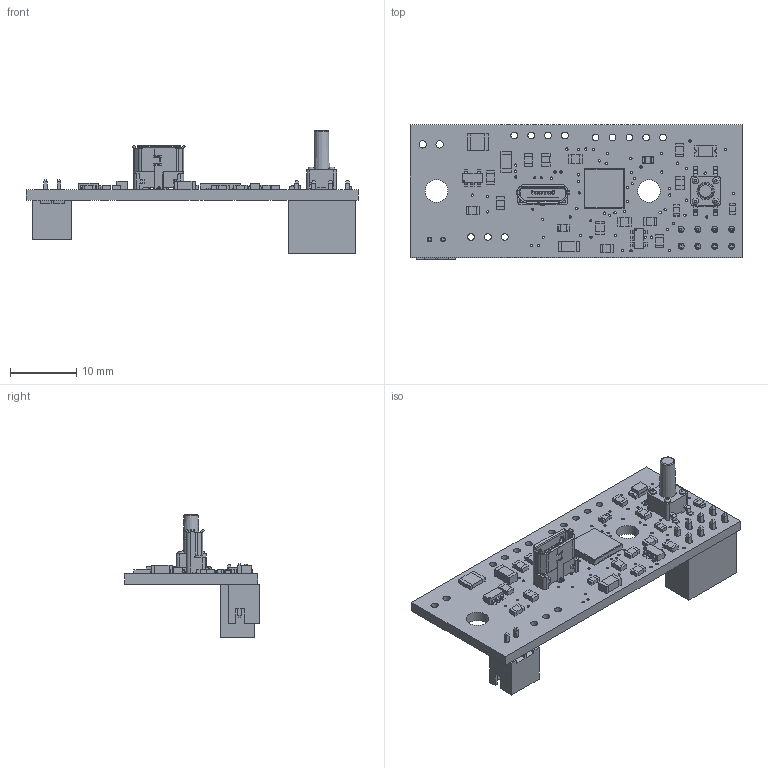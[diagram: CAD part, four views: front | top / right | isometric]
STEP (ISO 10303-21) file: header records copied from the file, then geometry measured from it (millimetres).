
FILE_DESCRIPTION(/* description */ (''),/* implementation_level */ '2;1');
FILE_NAME(/* name */ 'C:/Users/Owner/Desktop/pixel-quark-v1a-3d-1 v8.step',/* time_stamp */ '2020-02-29T10:13:47-06:00',/* author */ (''),/* organization */ (''),/* preprocessor_version */ 'ST-DEVELOPER v18',/* originating_system */ 'Autodesk Translation Framework v8.12.0.6',/* authorisation */ '');
FILE_SCHEMA (('AUTOMOTIVE_DESIGN { 1 0 10303 214 3 1 1 }'));
Products named in the file (21): pixel-quark-v1a-3d-1; PCB Component; Board; 0.1uF; 100; PIC24FJXXGB002; 10k; blue; AP2210K; Fuse 2 amps; 47uF; SW-TACTILE-TL3305; 105133-0001; MA04-1; MOLEX-KK-2P5V; FE05-1; MA03-1; ESP8266-01NOLABEL; SJ; B2B-PH-K; SJ (1)
Assembly tree (36 placements, depth 3):
  pixel-quark-v1a-3d-1
    PCB Component
      Board
      0.1uF  x9
      100  x4
      PIC24FJXXGB002
      10k  x4
      blue
      AP2210K  x2
      Fuse 2 amps
      47uF  x2
      SW-TACTILE-TL3305
      105133-0001
      MA04-1
      MOLEX-KK-2P5V
      FE05-1
      MA03-1
      ESP8266-01NOLABEL
      SJ
      B2B-PH-K
      SJ (1)
Bounding box: 50 x 20.26 x 18.47 mm (x, y, z)
Volume: 2150.3 mm3; surface area: 4104.4 mm2
Topology: 42 solids, 474 shells, 1996 faces, 6347 edges, 4937 vertices
Faces by surface type: plane 1423, cylinder 448, sphere 67, bspline 46, torus 9, cone 3
Full cylindrical faces by diameter (mm): 0.3 x2, 0.305 x8, 0.35 x68, 0.65 x4, 0.7 x4, 0.711 x2, 0.85 x2, 0.914 x8, 0.95 x4, 1 x5, 1.016 x7, 1.04 x1, 1.1 x2, 1.25 x1, 2.6 x1, 3.4 x2
Entity records: 62654 total; most frequent: CARTESIAN_POINT 12683, DIRECTION 9618, ORIENTED_EDGE 8422, EDGE_CURVE 5422, VERTEX_POINT 4370, LINE 4200, VECTOR 4200, AXIS2_PLACEMENT_3D 2709
